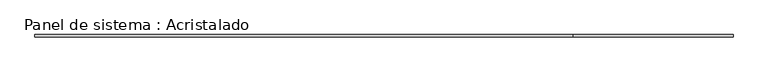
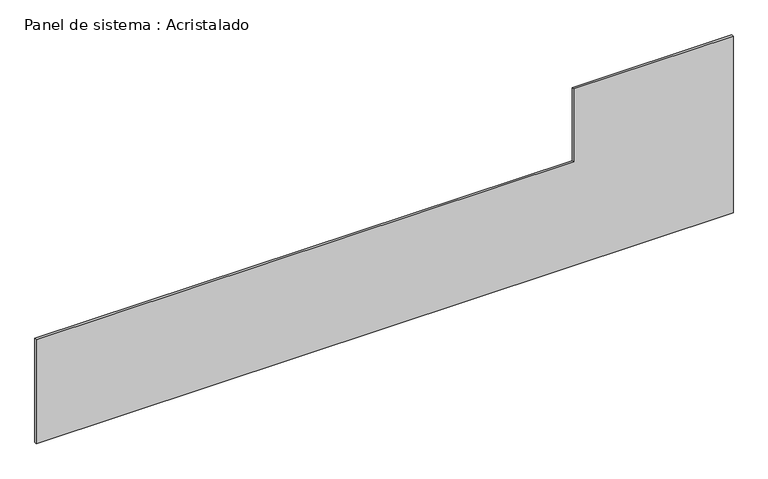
"""IFC4 building model written with IfcOpenShell, lengths in millimetres: plate geometry, Panel de sistema : Acristalado."""

from ifc_helpers import new_model, si_unit, frame, origin, place, context, project, spatial, polyline, outline, extrude, source, transform, mapped, element, save


def panel_de_sistema_acristalado_9beb0c57(model_context):
    return source(origin(), model_context, "Body", "SweptSolid", [
        extrude(outline(polyline([(0.0, -3169.9445394), (0.0, 3169.9445394), (1700.0, 3169.9445394), (1700.0, 1718.6873409), (1000.0, 1718.6873409), (1000.0, -3169.9445394), (0.0, -3169.9445394)])), frame((0.0, -10.0, 0.0), z_axis=(0.0, 1.0, 0.0), x_axis=(0.0, 0.0, 1.0)), (0.0, 0.0, 1.0), 20.0),
    ])


if __name__ == "__main__":
    model = new_model("IFC4")
    model_context = context("Model", 3, world=origin())
    ifc_project = project(units=[si_unit("LENGTHUNIT", "METRE", prefix="MILLI")], contexts=[model_context])
    site = spatial("IfcSite", under=ifc_project)
    building = spatial("IfcBuilding", under=site)
    placement = place(None, origin())
    panel_de_sistema_acristalado_shape = panel_de_sistema_acristalado_9beb0c57(model_context)
    element("IfcPlate", 1, ObjectType="Panel de sistema : Acristalado", at=placement, inside=building, context=model_context, shape_type="MappedRepresentation", body=[
        mapped(panel_de_sistema_acristalado_shape, transform((0.0, 0.0, 0.0), x_axis=(1.0, 0.0, 0.0), y_axis=(0.0, 1.0, 0.0), z_axis=(0.0, 0.0, 1.0))),
    ])
    save(model, "model.ifc")
